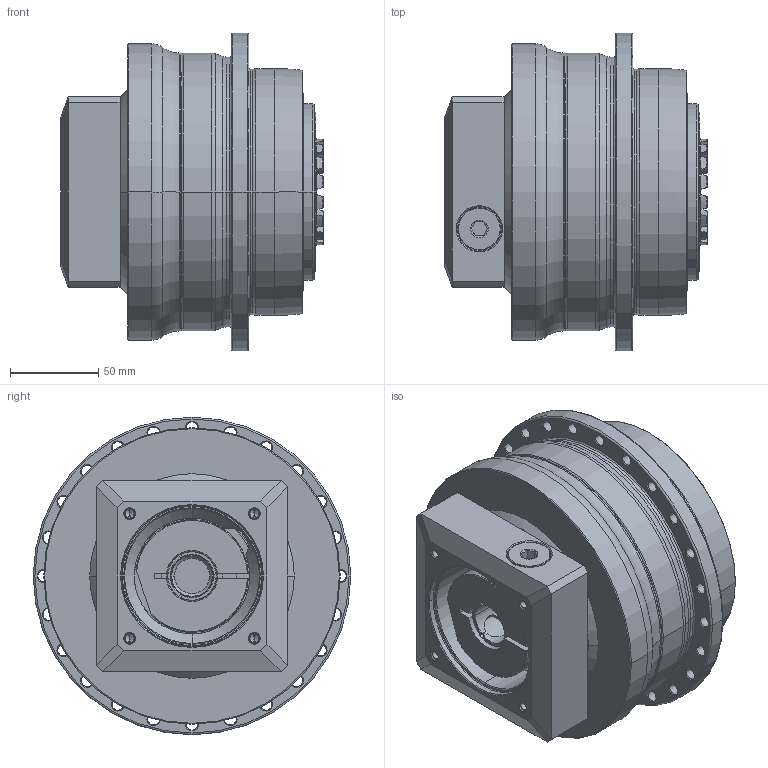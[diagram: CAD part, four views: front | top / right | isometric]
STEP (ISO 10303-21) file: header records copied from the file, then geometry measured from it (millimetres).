
FILE_DESCRIPTION((''),'2;1');
FILE_NAME('APC140_1ST_24-P0409510201_ASM','2018-06-26T',('d01226'),(''),'PRO/ENGINEER BY PARAMETRIC TECHNOLOGY CORPORATION, 2008410','PRO/ENGINEER BY PARAMETRIC TECHNOLOGY CORPORATION, 2008410','');
FILE_SCHEMA(('CONFIG_CONTROL_DESIGN'));
Length unit declared in the file: millimetre
Products named in the file (9): P0278501003; P03595D0103; P1318510001; P0503500010; P0912550001; P1211500001; P0409510201; 21711418017; APC140_1ST_24-P0409510201_ASM
Assembly tree (8 placements, depth 2):
  APC140_1ST_24-P0409510201_ASM
    P0278501003
    P03595D0103
    P1318510001
    P0503500010
    P0912550001
    P1211500001
    P0409510201
    21711418017
Bounding box: 148.6 x 180 x 180 mm (x, y, z)
Volume: 2216633.8 mm3; surface area: 282571.8 mm2
Topology: 9 solids, 19 shells, 668 faces, 1616 edges, 987 vertices
Faces by surface type: cone 225, cylinder 209, plane 122, torus 98, bspline 14
Entity records: 25135 total; most frequent: CARTESIAN_POINT 9109, DIRECTION 3573, ORIENTED_EDGE 3154, EDGE_CURVE 1598, AXIS2_PLACEMENT_3D 1549, VERTEX_POINT 987, CIRCLE 868, EDGE_LOOP 771
